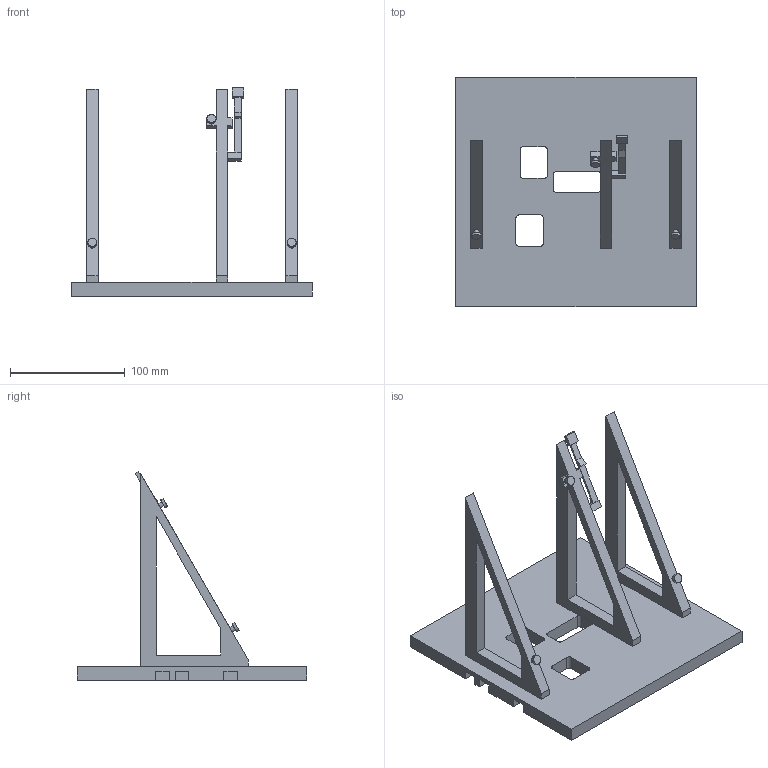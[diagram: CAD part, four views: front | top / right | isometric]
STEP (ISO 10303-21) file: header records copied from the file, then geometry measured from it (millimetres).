
FILE_DESCRIPTION(('Open CASCADE Model'),'2;1');
FILE_NAME('Open CASCADE Shape Model','2026-11-12T17:04:52',('Author'),( 'Open CASCADE'),'Open CASCADE STEP processor 7.8','Open CASCADE 7.8' ,'Unknown');
FILE_SCHEMA(('AUTOMOTIVE_DESIGN { 1 0 10303 214 1 1 1 1 }'));
Length unit declared in the file: millimetre
Products named in the file (1): Open CASCADE STEP translator 7.8 3
Bounding box: 210 x 200 x 182.04 mm (x, y, z)
Volume: 588488.5 mm3; surface area: 140563.3 mm2
Topology: 1 solids, 1 shells, 114 faces, 305 edges, 203 vertices
Faces by surface type: plane 92, cylinder 22
Full cylindrical faces by diameter (mm): 4.4 x3, 8 x3, 12 x4
Entity records: 7339 total; most frequent: CARTESIAN_POINT 1467, DIRECTION 984, LINE 615, VECTOR 615, ORIENTED_EDGE 610, PCURVE 610, DEFINITIONAL_REPRESENTATION 610, EDGE_CURVE 305
